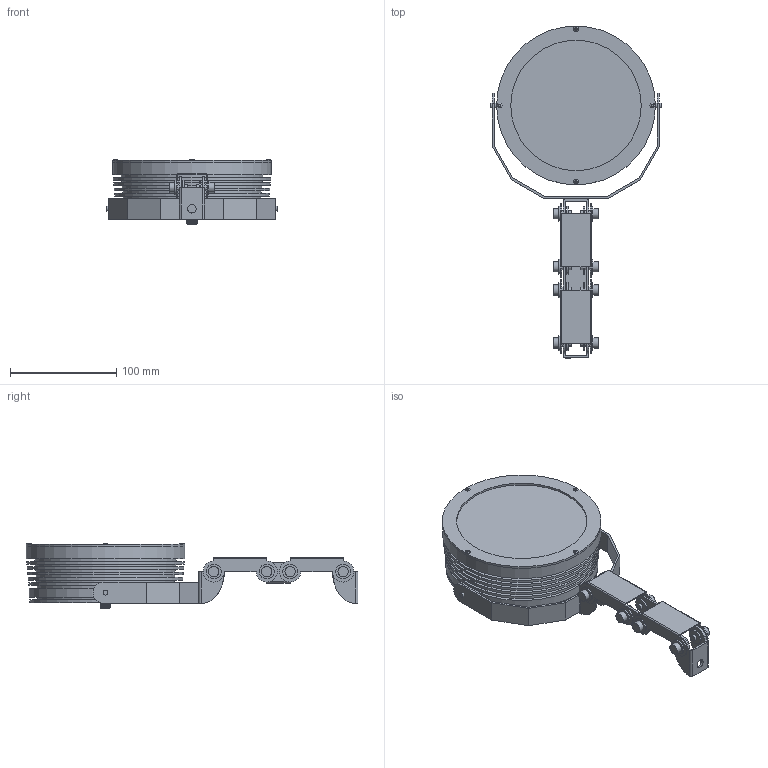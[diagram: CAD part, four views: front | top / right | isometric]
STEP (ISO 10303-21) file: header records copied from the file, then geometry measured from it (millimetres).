
FILE_DESCRIPTION(/* description */ (''),/* implementation_level */ '2;1');
FILE_NAME(/* name */ 'C:/Elena/ILM/02 3D/Crystal/Pubblico/Cristal Classic probo.step',/* time_stamp */ '2020-05-27T12:35:15+02:00',/* author */ (''),/* organization */ (''),/* preprocessor_version */ 'ST-DEVELOPER v18.1',/* originating_system */ 'Autodesk Translation Framework v9.3.0.1241',/* authorisation */ '');
FILE_SCHEMA (('AUTOMOTIVE_DESIGN { 1 0 10303 214 3 1 1 }'));
Products named in the file (1): Cristal Classic probo
Bounding box: 161.19 x 312.99 x 61.47 mm (x, y, z)
Volume: 708887.5 mm3; surface area: 271756.9 mm2
Topology: 27 solids, 31 shells, 2035 faces, 5280 edges, 3299 vertices
Faces by surface type: plane 974, bspline 292, cylinder 284, cone 229, torus 176, sphere 80
Full cylindrical faces by diameter (mm): 2.4 x4, 3 x4, 3.1 x4, 4 x2, 4.5 x2, 5 x5, 5.5 x16, 6 x12, 8 x2, 9.7 x8, 10.003 x1, 10.127 x1, 14 x16, 49.998 x4, 50 x4, 122.706 x1, 123 x1, 123.003 x1, 125.003 x1, 127.803 x1, 128.803 x1, 129.803 x1, 130.803 x1, 131.803 x1, 132.003 x1, 132.803 x1, 133.803 x1, 137.5 x1, 138.003 x1, 142.803 x1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
Entity records: 85818 total; most frequent: CARTESIAN_POINT 38238, ORIENTED_EDGE 10384, DIRECTION 9328, EDGE_CURVE 5192, AXIS2_PLACEMENT_3D 3660, VERTEX_POINT 3292, EDGE_LOOP 2190, FACE_OUTER_BOUND 2035
